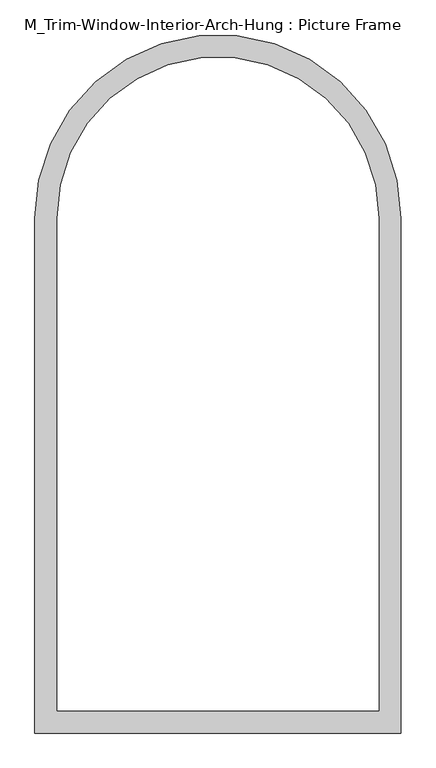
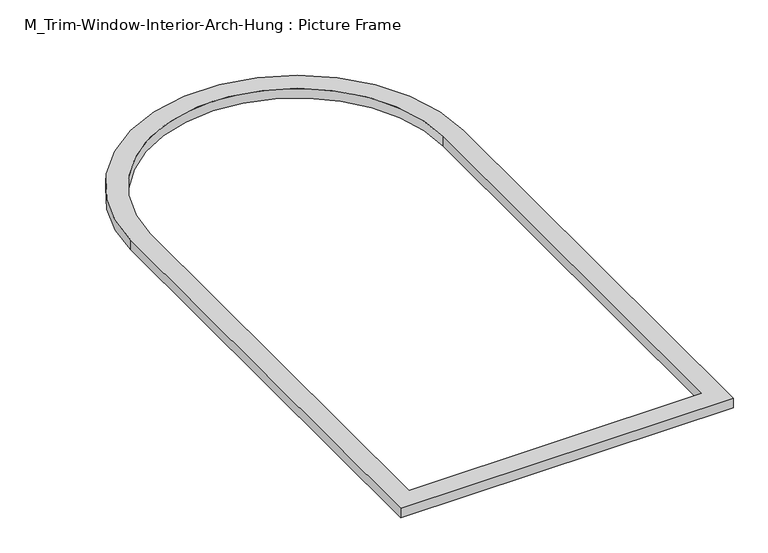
"""IFC4 building model written with IfcOpenShell, lengths in millimetres: proxy geometry, M_Trim-Window-Interior-Arch-Hung : Picture Frame."""

from ifc_helpers import new_model, si_unit, point, frame_2d, origin, origin_with_axes, place, context, project, spatial, polyline, circle_curve, trimmed, segment, composite_curve, outline, extrude, source, transform, mapped, element, save


def m_trim_window_interior_arch_hung_picture_frame_427b2bff(model_context):
    return source(origin(), model_context, "Body", "SweptSolid", [
        extrude(outline(composite_curve([segment(trimmed(circle_curve(frame_2d((0.0, -450.0)), 497.3), [point((-497.3, -450.0))], [point((497.3, -450.0))], False, "CARTESIAN"), True, "CONTINUOUS"), segment(polyline([(497.3, -450.0), (497.3, -1847.3), (-497.3, -1847.3), (-497.3, -450.0)]), True, "CONTINUOUS")], self_intersect=False), holes=[composite_curve([segment(polyline([(-437.3, -450.0), (-437.3, -1787.3), (437.3, -1787.3), (437.3, -450.0)]), True, "CONTINUOUS"), segment(trimmed(circle_curve(frame_2d((0.0, -450.0)), 437.3), [point((437.3, -450.0))], [point((-437.3, -450.0))], True, "CARTESIAN"), True, "CONTINUOUS")], self_intersect=False)]), origin_with_axes(), (0.0, 0.0, 1.0), 30.0),
    ])


if __name__ == "__main__":
    model = new_model("IFC4")
    model_context = context("Model", 3, world=origin())
    ifc_project = project(units=[si_unit("LENGTHUNIT", "METRE", prefix="MILLI")], contexts=[model_context])
    site = spatial("IfcSite", under=ifc_project)
    building = spatial("IfcBuilding", under=site)
    placement = place(None, origin())
    m_trim_window_interior_arch_hung_picture_frame_shape = m_trim_window_interior_arch_hung_picture_frame_427b2bff(model_context)
    element("IfcBuildingElementProxy", 1, Name="M_Trim-Window-Interior-Arch-Hung : Picture Frame", ObjectType="M_Trim-Window-Interior-Arch-Hung : Picture Frame", at=placement, inside=building, context=model_context, shape_type="MappedRepresentation", body=[
        mapped(m_trim_window_interior_arch_hung_picture_frame_shape, transform((0.0, 0.0, 0.0), x_axis=(1.0, 0.0, 0.0), y_axis=(0.0, 1.0, 0.0), z_axis=(0.0, 0.0, 1.0))),
    ])
    save(model, "model.ifc")
